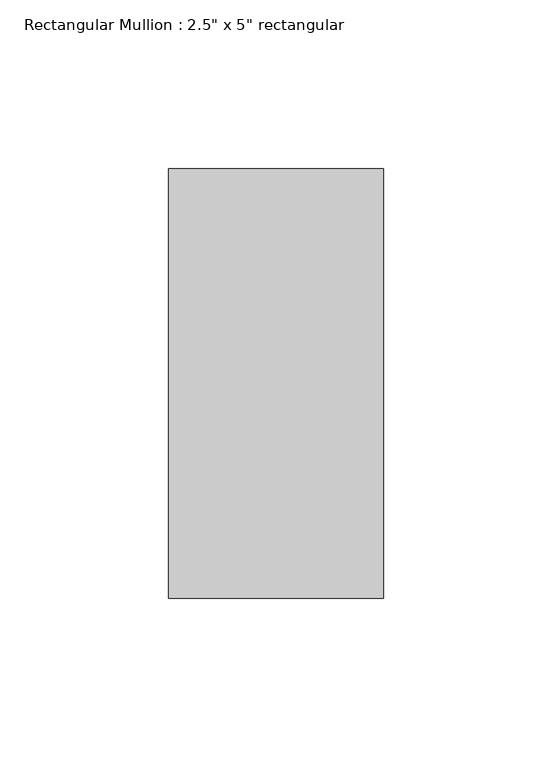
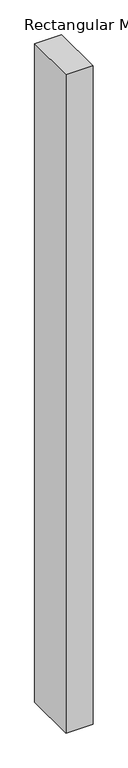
"""IFC4 building model written with IfcOpenShell, lengths in millimetres: member geometry."""

from ifc_helpers import new_model, si_unit, frame, origin, place, context, project, spatial, polyline, outline, extrude, source, transform, mapped, element, save


def member_869738d0(model_context):
    return source(origin(), model_context, "Body", "SweptSolid", [
        extrude(outline(polyline([(31.75, 63.5), (31.75, -63.5), (-31.75, -63.5), (-31.75, 63.5), (31.75, 63.5)])), frame((0.0, 0.0, -1631.95), z_axis=(0.0, 0.0, 1.0), x_axis=(1.0, 0.0, 0.0)), (0.0, 0.0, 1.0), 1631.95),
    ])


if __name__ == "__main__":
    model = new_model("IFC4")
    model_context = context("Model", 3, world=origin())
    ifc_project = project(units=[si_unit("LENGTHUNIT", "METRE", prefix="MILLI")], contexts=[model_context])
    site = spatial("IfcSite", under=ifc_project)
    building = spatial("IfcBuilding", under=site)
    placement = place(None, origin())
    member_shape = member_869738d0(model_context)
    element("IfcMember", 1, ObjectType="Rectangular Mullion : 2.5\" x 5\" rectangular", at=placement, inside=building, context=model_context, shape_type="MappedRepresentation", body=[
        mapped(member_shape, transform((0.0, 0.0, 0.0), x_axis=(1.0, 0.0, 0.0), y_axis=(0.0, 1.0, 0.0), z_axis=(0.0, 0.0, 1.0))),
    ])
    save(model, "model.ifc")
